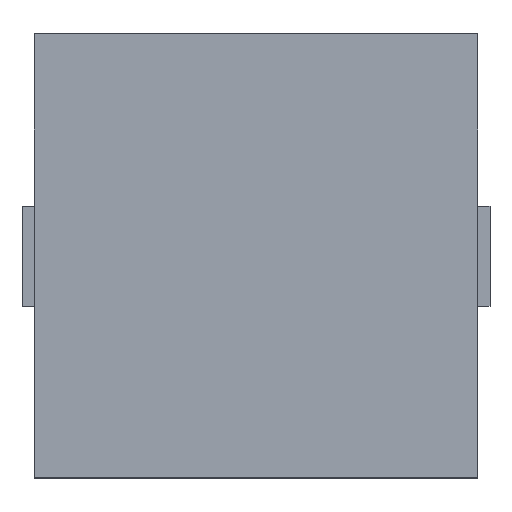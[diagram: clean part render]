
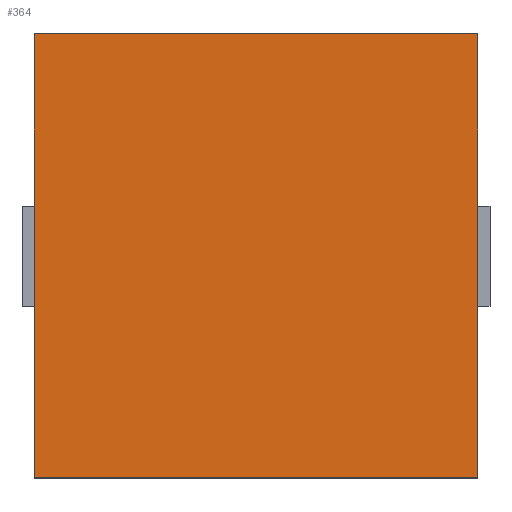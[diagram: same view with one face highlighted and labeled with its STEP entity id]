
A CAD part, top view. The second image highlights one B-rep face of the part: STEP entity #364.
In plain terms, the highlighted planar face has unit normal (0, 0, 1).
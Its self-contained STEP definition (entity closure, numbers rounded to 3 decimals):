
#50 = VERTEX_POINT('',#51);
#51 = CARTESIAN_POINT('',(-3.5,-3.5,4.5));
#58 = PLANE('',#59);
#59 = AXIS2_PLACEMENT_3D('',#60,#61,#62);
#60 = CARTESIAN_POINT('',(-3.5,-3.5,0.1));
#61 = DIRECTION('',(1.,0.,0.));
#62 = DIRECTION('',(0.,0.,1.));
#70 = PLANE('',#71);
#71 = AXIS2_PLACEMENT_3D('',#72,#73,#74);
#72 = CARTESIAN_POINT('',(-3.5,-3.5,0.1));
#73 = DIRECTION('',(0.,1.,0.));
#74 = DIRECTION('',(0.,0.,1.));
#111 = VERTEX_POINT('',#112);
#112 = CARTESIAN_POINT('',(-3.5,3.5,4.5));
#126 = PLANE('',#127);
#127 = AXIS2_PLACEMENT_3D('',#128,#129,#130);
#128 = CARTESIAN_POINT('',(-3.5,3.5,0.1));
#129 = DIRECTION('',(0.,1.,0.));
#130 = DIRECTION('',(0.,0.,1.));
#138 = EDGE_CURVE('',#50,#111,#139,.T.);
#139 = SURFACE_CURVE('',#140,(#144,#151),.PCURVE_S1.);
#140 = LINE('',#141,#142);
#141 = CARTESIAN_POINT('',(-3.5,-3.5,4.5));
#142 = VECTOR('',#143,1.);
#143 = DIRECTION('',(0.,1.,0.));
#144 = PCURVE('',#58,#145);
#145 = DEFINITIONAL_REPRESENTATION('',(#146),#150);
#146 = LINE('',#147,#148);
#147 = CARTESIAN_POINT('',(4.4,0.));
#148 = VECTOR('',#149,1.);
#149 = DIRECTION('',(0.,-1.));
#150 = ( GEOMETRIC_REPRESENTATION_CONTEXT(2) 
PARAMETRIC_REPRESENTATION_CONTEXT() REPRESENTATION_CONTEXT('2D SPACE',''
  ) );
#151 = PCURVE('',#152,#157);
#152 = PLANE('',#153);
#153 = AXIS2_PLACEMENT_3D('',#154,#155,#156);
#154 = CARTESIAN_POINT('',(-3.5,-3.5,4.5));
#155 = DIRECTION('',(0.,0.,1.));
#156 = DIRECTION('',(1.,0.,0.));
#157 = DEFINITIONAL_REPRESENTATION('',(#158),#162);
#158 = LINE('',#159,#160);
#159 = CARTESIAN_POINT('',(0.,0.));
#160 = VECTOR('',#161,1.);
#161 = DIRECTION('',(0.,1.));
#162 = ( GEOMETRIC_REPRESENTATION_CONTEXT(2) 
PARAMETRIC_REPRESENTATION_CONTEXT() REPRESENTATION_CONTEXT('2D SPACE',''
  ) );
#170 = VERTEX_POINT('',#171);
#171 = CARTESIAN_POINT('',(3.5,-3.5,4.5));
#178 = PLANE('',#179);
#179 = AXIS2_PLACEMENT_3D('',#180,#181,#182);
#180 = CARTESIAN_POINT('',(3.5,-3.5,0.1));
#181 = DIRECTION('',(1.,0.,0.));
#182 = DIRECTION('',(0.,0.,1.));
#221 = VERTEX_POINT('',#222);
#222 = CARTESIAN_POINT('',(3.5,3.5,4.5));
#243 = EDGE_CURVE('',#170,#221,#244,.T.);
#244 = SURFACE_CURVE('',#245,(#249,#256),.PCURVE_S1.);
#245 = LINE('',#246,#247);
#246 = CARTESIAN_POINT('',(3.5,-3.5,4.5));
#247 = VECTOR('',#248,1.);
#248 = DIRECTION('',(0.,1.,0.));
#249 = PCURVE('',#178,#250);
#250 = DEFINITIONAL_REPRESENTATION('',(#251),#255);
#251 = LINE('',#252,#253);
#252 = CARTESIAN_POINT('',(4.4,0.));
#253 = VECTOR('',#254,1.);
#254 = DIRECTION('',(0.,-1.));
#255 = ( GEOMETRIC_REPRESENTATION_CONTEXT(2) 
PARAMETRIC_REPRESENTATION_CONTEXT() REPRESENTATION_CONTEXT('2D SPACE',''
  ) );
#256 = PCURVE('',#152,#257);
#257 = DEFINITIONAL_REPRESENTATION('',(#258),#262);
#258 = LINE('',#259,#260);
#259 = CARTESIAN_POINT('',(7.,0.));
#260 = VECTOR('',#261,1.);
#261 = DIRECTION('',(0.,1.));
#262 = ( GEOMETRIC_REPRESENTATION_CONTEXT(2) 
PARAMETRIC_REPRESENTATION_CONTEXT() REPRESENTATION_CONTEXT('2D SPACE',''
  ) );
#289 = EDGE_CURVE('',#50,#170,#290,.T.);
#290 = SURFACE_CURVE('',#291,(#295,#302),.PCURVE_S1.);
#291 = LINE('',#292,#293);
#292 = CARTESIAN_POINT('',(-3.5,-3.5,4.5));
#293 = VECTOR('',#294,1.);
#294 = DIRECTION('',(1.,0.,0.));
#295 = PCURVE('',#70,#296);
#296 = DEFINITIONAL_REPRESENTATION('',(#297),#301);
#297 = LINE('',#298,#299);
#298 = CARTESIAN_POINT('',(4.4,0.));
#299 = VECTOR('',#300,1.);
#300 = DIRECTION('',(0.,1.));
#301 = ( GEOMETRIC_REPRESENTATION_CONTEXT(2) 
PARAMETRIC_REPRESENTATION_CONTEXT() REPRESENTATION_CONTEXT('2D SPACE',''
  ) );
#302 = PCURVE('',#152,#303);
#303 = DEFINITIONAL_REPRESENTATION('',(#304),#308);
#304 = LINE('',#305,#306);
#305 = CARTESIAN_POINT('',(0.,0.));
#306 = VECTOR('',#307,1.);
#307 = DIRECTION('',(1.,0.));
#308 = ( GEOMETRIC_REPRESENTATION_CONTEXT(2) 
PARAMETRIC_REPRESENTATION_CONTEXT() REPRESENTATION_CONTEXT('2D SPACE',''
  ) );
#336 = EDGE_CURVE('',#111,#221,#337,.T.);
#337 = SURFACE_CURVE('',#338,(#342,#349),.PCURVE_S1.);
#338 = LINE('',#339,#340);
#339 = CARTESIAN_POINT('',(-3.5,3.5,4.5));
#340 = VECTOR('',#341,1.);
#341 = DIRECTION('',(1.,0.,0.));
#342 = PCURVE('',#126,#343);
#343 = DEFINITIONAL_REPRESENTATION('',(#344),#348);
#344 = LINE('',#345,#346);
#345 = CARTESIAN_POINT('',(4.4,0.));
#346 = VECTOR('',#347,1.);
#347 = DIRECTION('',(0.,1.));
#348 = ( GEOMETRIC_REPRESENTATION_CONTEXT(2) 
PARAMETRIC_REPRESENTATION_CONTEXT() REPRESENTATION_CONTEXT('2D SPACE',''
  ) );
#349 = PCURVE('',#152,#350);
#350 = DEFINITIONAL_REPRESENTATION('',(#351),#355);
#351 = LINE('',#352,#353);
#352 = CARTESIAN_POINT('',(0.,7.));
#353 = VECTOR('',#354,1.);
#354 = DIRECTION('',(1.,0.));
#355 = ( GEOMETRIC_REPRESENTATION_CONTEXT(2) 
PARAMETRIC_REPRESENTATION_CONTEXT() REPRESENTATION_CONTEXT('2D SPACE',''
  ) );
#364 = ADVANCED_FACE('',(#365),#152,.T.);
#365 = FACE_BOUND('',#366,.T.);
#366 = EDGE_LOOP('',(#367,#368,#369,#370));
#367 = ORIENTED_EDGE('',*,*,#138,.F.);
#368 = ORIENTED_EDGE('',*,*,#289,.T.);
#369 = ORIENTED_EDGE('',*,*,#243,.T.);
#370 = ORIENTED_EDGE('',*,*,#336,.F.);
